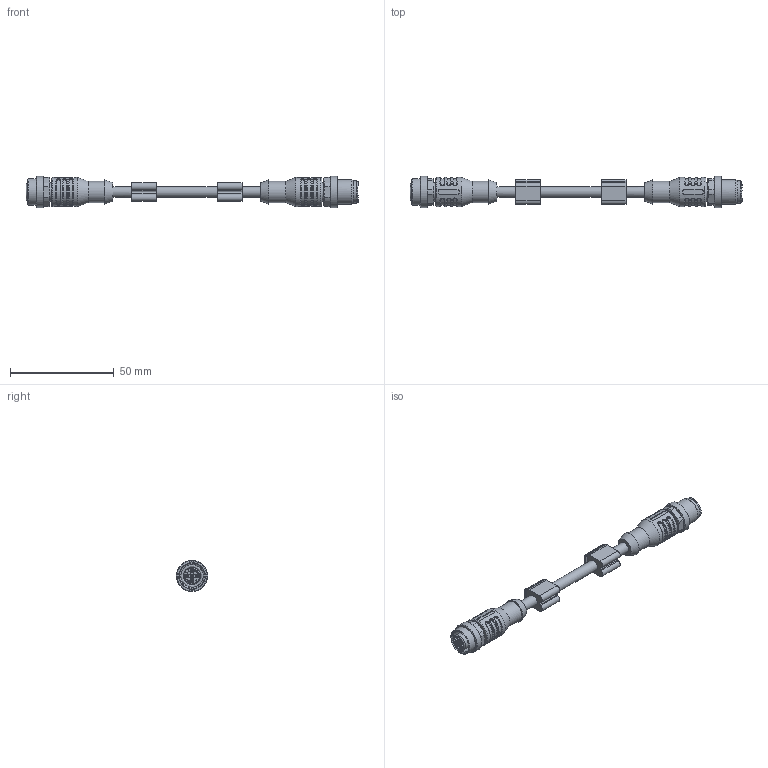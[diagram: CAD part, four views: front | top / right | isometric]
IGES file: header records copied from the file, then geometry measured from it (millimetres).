
Global section: file name: 153-13640_L5_L5-xM-PUR; native system: Autodesk Inventor 2018; preprocessor: unknown; date: 20191106.114944; units: millimetre
Bounding box: 160 x 15 x 14.98 mm (x, y, z)
Volume: 12999.6 mm3; surface area: 7747.3 mm2
Topology: 1 solids, 1 shells, 583 faces, 1491 edges, 963 vertices
Faces by surface type: bspline 583
